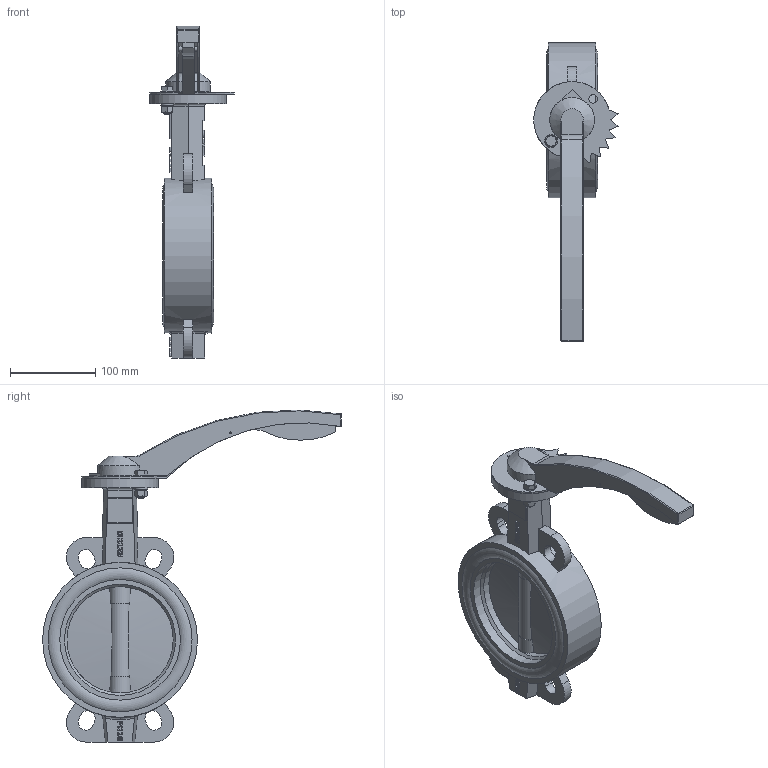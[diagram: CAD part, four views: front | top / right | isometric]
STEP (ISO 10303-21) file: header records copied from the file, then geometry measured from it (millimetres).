
FILE_DESCRIPTION(('STEP AP242'), '1');
FILE_NAME('Ïîâîðîòíûé çàòâîð ïîä ýëåêòðîïðèâîä', '', ('UNSPECIFIED'), ('UNSPECIFIED'), 'C3D Converter', 'C3D Toolkit', '');
FILE_SCHEMA(('AP242_MANAGED_MODEL_BASED_3D_ENGINEERING_MIM_LF { 1 0 10303 442 1 1 4 }'));
Length unit declared in the file: millimetre
Products named in the file (14): П
Assembly tree (15 placements, depth 3):
  (unnamed)
    (unnamed)
    П  x2
    (unnamed)
    (unnamed)
    (unnamed)
    (unnamed)
      (unnamed)
      (unnamed)
      (unnamed)
    (unnamed)
    (unnamed)  x2
    (unnamed)
    (unnamed)
Bounding box: 99.15 x 351 x 389.95 mm (x, y, z)
Volume: 1362106.8 mm3; surface area: 358656.5 mm2
Topology: 14 solids, 14 shells, 535 faces, 1383 edges, 901 vertices
Faces by surface type: plane 279, extrusion 131, cylinder 92, cone 12, torus 9, bspline 6, sphere 6
Full cylindrical faces by diameter (mm): 2 x2, 3 x2, 6 x2, 6.647 x1, 8 x1, 9 x2, 9.137 x1, 10 x6, 15 x2, 17 x6, 24.042 x5, 26.41 x4, 26.87 x1, 90 x1, 125 x1, 130.56 x2, 141.68 x2, 155.353 x4, 169.027 x4, 182 x1
Entity records: 22554 total; most frequent: CARTESIAN_POINT 7583, ORIENTED_EDGE 2606, DIRECTION 2112, EDGE_CURVE 1303, VERTEX_POINT 892, VECTOR 848, LINE 717, EDGE_LOOP 663
